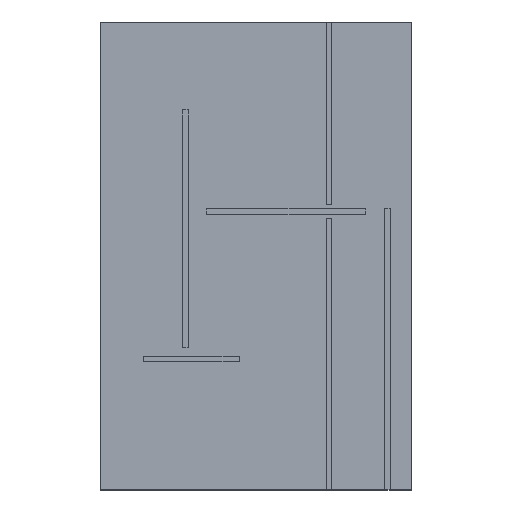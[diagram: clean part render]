
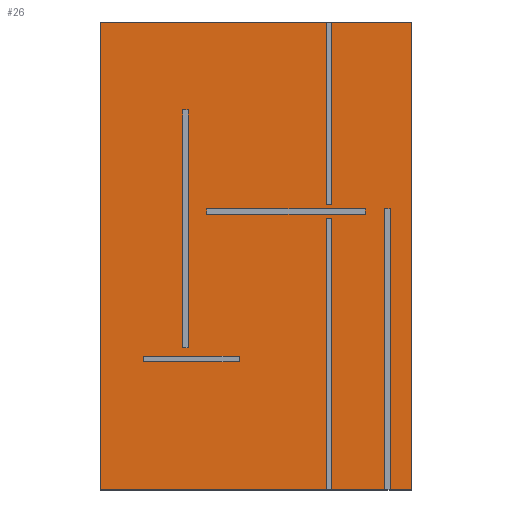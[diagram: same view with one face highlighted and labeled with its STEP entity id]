
A CAD part, top view. The second image highlights one B-rep face of the part: STEP entity #26.
In plain terms, the highlighted planar face has unit normal (0, 0, 1).
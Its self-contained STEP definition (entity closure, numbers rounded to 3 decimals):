
#26=ADVANCED_FACE('',(#98,#92,#93,#94),#964,.T.);
#92=FACE_BOUND('',#165,.T.);
#93=FACE_BOUND('',#166,.T.);
#94=FACE_BOUND('',#167,.T.);
#98=FACE_OUTER_BOUND('',#164,.T.);
#164=EDGE_LOOP('',(#236,#237,#238,#239,#240,#241,#242,#243,#244,#245,#246,
#247,#248,#249,#250,#251));
#165=EDGE_LOOP('',(#252,#253,#254,#255));
#166=EDGE_LOOP('',(#256,#257,#258,#259));
#167=EDGE_LOOP('',(#260,#261,#262,#263));
#236=ORIENTED_EDGE('',*,*,#563,.F.);
#237=ORIENTED_EDGE('',*,*,#562,.F.);
#238=ORIENTED_EDGE('',*,*,#561,.F.);
#239=ORIENTED_EDGE('',*,*,#560,.F.);
#240=ORIENTED_EDGE('',*,*,#559,.F.);
#241=ORIENTED_EDGE('',*,*,#558,.F.);
#242=ORIENTED_EDGE('',*,*,#557,.F.);
#243=ORIENTED_EDGE('',*,*,#556,.F.);
#244=ORIENTED_EDGE('',*,*,#555,.F.);
#245=ORIENTED_EDGE('',*,*,#554,.F.);
#246=ORIENTED_EDGE('',*,*,#553,.F.);
#247=ORIENTED_EDGE('',*,*,#552,.F.);
#248=ORIENTED_EDGE('',*,*,#551,.F.);
#249=ORIENTED_EDGE('',*,*,#550,.F.);
#250=ORIENTED_EDGE('',*,*,#549,.F.);
#251=ORIENTED_EDGE('',*,*,#548,.F.);
#252=ORIENTED_EDGE('',*,*,#567,.F.);
#253=ORIENTED_EDGE('',*,*,#568,.F.);
#254=ORIENTED_EDGE('',*,*,#569,.F.);
#255=ORIENTED_EDGE('',*,*,#564,.F.);
#256=ORIENTED_EDGE('',*,*,#570,.F.);
#257=ORIENTED_EDGE('',*,*,#571,.F.);
#258=ORIENTED_EDGE('',*,*,#572,.F.);
#259=ORIENTED_EDGE('',*,*,#565,.F.);
#260=ORIENTED_EDGE('',*,*,#573,.F.);
#261=ORIENTED_EDGE('',*,*,#574,.F.);
#262=ORIENTED_EDGE('',*,*,#575,.F.);
#263=ORIENTED_EDGE('',*,*,#566,.F.);
#548=EDGE_CURVE('',#860,#861,#704,.T.);
#549=EDGE_CURVE('',#861,#862,#705,.T.);
#550=EDGE_CURVE('',#862,#863,#706,.T.);
#551=EDGE_CURVE('',#863,#864,#707,.T.);
#552=EDGE_CURVE('',#864,#865,#708,.T.);
#553=EDGE_CURVE('',#865,#866,#709,.T.);
#554=EDGE_CURVE('',#866,#867,#710,.T.);
#555=EDGE_CURVE('',#867,#868,#711,.T.);
#556=EDGE_CURVE('',#868,#869,#712,.T.);
#557=EDGE_CURVE('',#869,#870,#713,.T.);
#558=EDGE_CURVE('',#870,#871,#714,.T.);
#559=EDGE_CURVE('',#871,#872,#715,.T.);
#560=EDGE_CURVE('',#872,#873,#716,.T.);
#561=EDGE_CURVE('',#873,#874,#717,.T.);
#562=EDGE_CURVE('',#874,#875,#718,.T.);
#563=EDGE_CURVE('',#875,#860,#719,.T.);
#564=EDGE_CURVE('',#876,#881,#720,.T.);
#565=EDGE_CURVE('',#877,#884,#721,.T.);
#566=EDGE_CURVE('',#878,#887,#722,.T.);
#567=EDGE_CURVE('',#879,#876,#723,.T.);
#568=EDGE_CURVE('',#880,#879,#724,.T.);
#569=EDGE_CURVE('',#881,#880,#725,.T.);
#570=EDGE_CURVE('',#882,#877,#726,.T.);
#571=EDGE_CURVE('',#883,#882,#727,.T.);
#572=EDGE_CURVE('',#884,#883,#728,.T.);
#573=EDGE_CURVE('',#885,#878,#729,.T.);
#574=EDGE_CURVE('',#886,#885,#730,.T.);
#575=EDGE_CURVE('',#887,#886,#731,.T.);
#704=B_SPLINE_CURVE_WITH_KNOTS('',1,(#1342,#1343),.UNSPECIFIED.,.F.,.F.,
(2,2),(0.,1473.142),.UNSPECIFIED.);
#705=B_SPLINE_CURVE_WITH_KNOTS('',1,(#1344,#1345),.UNSPECIFIED.,.F.,.F.,
(2,2),(0.,1169.086),.UNSPECIFIED.);
#706=B_SPLINE_CURVE_WITH_KNOTS('',1,(#1346,#1347),.UNSPECIFIED.,.F.,.F.,
(2,2),(0.,34.76),.UNSPECIFIED.);
#707=B_SPLINE_CURVE_WITH_KNOTS('',1,(#1348,#1349),.UNSPECIFIED.,.F.,.F.,
(2,2),(0.,1169.086),.UNSPECIFIED.);
#708=B_SPLINE_CURVE_WITH_KNOTS('',1,(#1350,#1351),.UNSPECIFIED.,.F.,.F.,
(2,2),(0.,524.488),.UNSPECIFIED.);
#709=B_SPLINE_CURVE_WITH_KNOTS('',1,(#1352,#1353),.UNSPECIFIED.,.F.,.F.,
(2,2),(0.,3000.),.UNSPECIFIED.);
#710=B_SPLINE_CURVE_WITH_KNOTS('',1,(#1354,#1355),.UNSPECIFIED.,.F.,.F.,
(2,2),(0.,142.488),.UNSPECIFIED.);
#711=B_SPLINE_CURVE_WITH_KNOTS('',1,(#1356,#1357),.UNSPECIFIED.,.F.,.F.,
(2,2),(0.,1802.),.UNSPECIFIED.);
#712=B_SPLINE_CURVE_WITH_KNOTS('',1,(#1358,#1359),.UNSPECIFIED.,.F.,.F.,
(2,2),(0.,34.76),.UNSPECIFIED.);
#713=B_SPLINE_CURVE_WITH_KNOTS('',1,(#1360,#1361),.UNSPECIFIED.,.F.,.F.,
(2,2),(0.,1802.),.UNSPECIFIED.);
#714=B_SPLINE_CURVE_WITH_KNOTS('',1,(#1362,#1363),.UNSPECIFIED.,.F.,.F.,
(2,2),(0.,347.24),.UNSPECIFIED.);
#715=B_SPLINE_CURVE_WITH_KNOTS('',1,(#1364,#1365),.UNSPECIFIED.,.F.,.F.,
(2,2),(0.,1738.326),.UNSPECIFIED.);
#716=B_SPLINE_CURVE_WITH_KNOTS('',1,(#1366,#1367),.UNSPECIFIED.,.F.,.F.,
(2,2),(0.,34.76),.UNSPECIFIED.);
#717=B_SPLINE_CURVE_WITH_KNOTS('',1,(#1368,#1369),.UNSPECIFIED.,.F.,.F.,
(2,2),(0.,1738.326),.UNSPECIFIED.);
#718=B_SPLINE_CURVE_WITH_KNOTS('',1,(#1370,#1371),.UNSPECIFIED.,.F.,.F.,
(2,2),(0.,1473.142),.UNSPECIFIED.);
#719=B_SPLINE_CURVE_WITH_KNOTS('',1,(#1372,#1373),.UNSPECIFIED.,.F.,.F.,
(2,2),(0.,3000.),.UNSPECIFIED.);
#720=B_SPLINE_CURVE_WITH_KNOTS('',1,(#1374,#1375),.UNSPECIFIED.,.F.,.F.,
(2,2),(0.,32.76),.UNSPECIFIED.);
#721=B_SPLINE_CURVE_WITH_KNOTS('',1,(#1376,#1377),.UNSPECIFIED.,.F.,.F.,
(2,2),(0.,32.76),.UNSPECIFIED.);
#722=B_SPLINE_CURVE_WITH_KNOTS('',1,(#1378,#1379),.UNSPECIFIED.,.F.,.F.,
(2,2),(0.,32.76),.UNSPECIFIED.);
#723=B_SPLINE_CURVE_WITH_KNOTS('',1,(#1380,#1381),.UNSPECIFIED.,.F.,.F.,
(2,2),(3065.521,6065.521),.UNSPECIFIED.);
#724=B_SPLINE_CURVE_WITH_KNOTS('',1,(#1382,#1383),.UNSPECIFIED.,.F.,.F.,
(2,2),(3032.76,3065.521),.UNSPECIFIED.);
#725=B_SPLINE_CURVE_WITH_KNOTS('',1,(#1384,#1385),.UNSPECIFIED.,.F.,.F.,
(2,2),(32.76,3032.76),.UNSPECIFIED.);
#726=B_SPLINE_CURVE_WITH_KNOTS('',1,(#1386,#1387),.UNSPECIFIED.,.F.,.F.,
(2,2),(3065.521,6065.521),.UNSPECIFIED.);
#727=B_SPLINE_CURVE_WITH_KNOTS('',1,(#1388,#1389),.UNSPECIFIED.,.F.,.F.,
(2,2),(3032.76,3065.521),.UNSPECIFIED.);
#728=B_SPLINE_CURVE_WITH_KNOTS('',1,(#1390,#1391),.UNSPECIFIED.,.F.,.F.,
(2,2),(32.76,3032.76),.UNSPECIFIED.);
#729=B_SPLINE_CURVE_WITH_KNOTS('',1,(#1392,#1393),.UNSPECIFIED.,.F.,.F.,
(2,2),(3065.521,6065.521),.UNSPECIFIED.);
#730=B_SPLINE_CURVE_WITH_KNOTS('',1,(#1394,#1395),.UNSPECIFIED.,.F.,.F.,
(2,2),(3032.76,3065.521),.UNSPECIFIED.);
#731=B_SPLINE_CURVE_WITH_KNOTS('',1,(#1396,#1397),.UNSPECIFIED.,.F.,.F.,
(2,2),(32.76,3032.76),.UNSPECIFIED.);
#860=VERTEX_POINT('',#1286);
#861=VERTEX_POINT('',#1287);
#862=VERTEX_POINT('',#1288);
#863=VERTEX_POINT('',#1289);
#864=VERTEX_POINT('',#1290);
#865=VERTEX_POINT('',#1291);
#866=VERTEX_POINT('',#1292);
#867=VERTEX_POINT('',#1293);
#868=VERTEX_POINT('',#1294);
#869=VERTEX_POINT('',#1295);
#870=VERTEX_POINT('',#1296);
#871=VERTEX_POINT('',#1297);
#872=VERTEX_POINT('',#1298);
#873=VERTEX_POINT('',#1299);
#874=VERTEX_POINT('',#1300);
#875=VERTEX_POINT('',#1301);
#876=VERTEX_POINT('',#1302);
#877=VERTEX_POINT('',#1303);
#878=VERTEX_POINT('',#1304);
#879=VERTEX_POINT('',#1305);
#880=VERTEX_POINT('',#1306);
#881=VERTEX_POINT('',#1307);
#882=VERTEX_POINT('',#1308);
#883=VERTEX_POINT('',#1309);
#884=VERTEX_POINT('',#1310);
#885=VERTEX_POINT('',#1311);
#886=VERTEX_POINT('',#1312);
#887=VERTEX_POINT('',#1313);
#964=PLANE('',#1118);
#1118=AXIS2_PLACEMENT_3D('',#1256,#1187,$);
#1187=DIRECTION('',(0.,0.,1.));
#1256=CARTESIAN_POINT('',(-20.,3030.,0.));
#1286=CARTESIAN_POINT('',(0.,3000.,0.));
#1287=CARTESIAN_POINT('',(1449.664,3000.,0.));
#1288=CARTESIAN_POINT('',(1449.664,1830.914,0.));
#1289=CARTESIAN_POINT('',(1483.871,1830.914,0.));
#1290=CARTESIAN_POINT('',(1483.871,3000.,0.));
#1291=CARTESIAN_POINT('',(2000.,3000.,0.));
#1292=CARTESIAN_POINT('',(2000.,0.,0.));
#1293=CARTESIAN_POINT('',(1859.783,0.,0.));
#1294=CARTESIAN_POINT('',(1859.783,1802.,0.));
#1295=CARTESIAN_POINT('',(1825.577,1802.,0.));
#1296=CARTESIAN_POINT('',(1825.577,0.,0.));
#1297=CARTESIAN_POINT('',(1483.871,0.,0.));
#1298=CARTESIAN_POINT('',(1483.871,1738.326,0.));
#1299=CARTESIAN_POINT('',(1449.664,1738.326,0.));
#1300=CARTESIAN_POINT('',(1449.664,0.,0.));
#1301=CARTESIAN_POINT('',(0.,0.,0.));
#1302=CARTESIAN_POINT('',(530.55,911.,0.));
#1303=CARTESIAN_POINT('',(1701.445,1767.24,0.));
#1304=CARTESIAN_POINT('',(891.561,823.24,0.));
#1305=CARTESIAN_POINT('',(530.55,2436.,0.));
#1306=CARTESIAN_POINT('',(564.756,2436.,0.));
#1307=CARTESIAN_POINT('',(564.756,911.,0.));
#1308=CARTESIAN_POINT('',(682.983,1767.24,0.));
#1309=CARTESIAN_POINT('',(682.983,1802.,0.));
#1310=CARTESIAN_POINT('',(1701.445,1802.,0.));
#1311=CARTESIAN_POINT('',(279.517,823.24,0.));
#1312=CARTESIAN_POINT('',(279.517,858.,0.));
#1313=CARTESIAN_POINT('',(891.561,858.,0.));
#1342=CARTESIAN_POINT('',(0.,3000.,0.));
#1343=CARTESIAN_POINT('',(1449.664,3000.,0.));
#1344=CARTESIAN_POINT('',(1449.664,3000.,0.));
#1345=CARTESIAN_POINT('',(1449.664,1830.914,0.));
#1346=CARTESIAN_POINT('',(1449.664,1830.914,0.));
#1347=CARTESIAN_POINT('',(1483.871,1830.914,0.));
#1348=CARTESIAN_POINT('',(1483.871,1830.914,0.));
#1349=CARTESIAN_POINT('',(1483.871,3000.,0.));
#1350=CARTESIAN_POINT('',(1483.871,3000.,0.));
#1351=CARTESIAN_POINT('',(2000.,3000.,0.));
#1352=CARTESIAN_POINT('',(2000.,3000.,0.));
#1353=CARTESIAN_POINT('',(2000.,0.,0.));
#1354=CARTESIAN_POINT('',(2000.,0.,0.));
#1355=CARTESIAN_POINT('',(1859.783,0.,0.));
#1356=CARTESIAN_POINT('',(1859.783,0.,0.));
#1357=CARTESIAN_POINT('',(1859.783,1802.,0.));
#1358=CARTESIAN_POINT('',(1859.783,1802.,0.));
#1359=CARTESIAN_POINT('',(1825.577,1802.,0.));
#1360=CARTESIAN_POINT('',(1825.577,1802.,0.));
#1361=CARTESIAN_POINT('',(1825.577,0.,0.));
#1362=CARTESIAN_POINT('',(1825.577,0.,0.));
#1363=CARTESIAN_POINT('',(1483.871,0.,0.));
#1364=CARTESIAN_POINT('',(1483.871,0.,0.));
#1365=CARTESIAN_POINT('',(1483.871,1738.326,0.));
#1366=CARTESIAN_POINT('',(1483.871,1738.326,0.));
#1367=CARTESIAN_POINT('',(1449.664,1738.326,0.));
#1368=CARTESIAN_POINT('',(1449.664,1738.326,0.));
#1369=CARTESIAN_POINT('',(1449.664,0.,0.));
#1370=CARTESIAN_POINT('',(1449.664,0.,0.));
#1371=CARTESIAN_POINT('',(0.,0.,0.));
#1372=CARTESIAN_POINT('',(0.,0.,0.));
#1373=CARTESIAN_POINT('',(0.,3000.,0.));
#1374=CARTESIAN_POINT('',(530.55,911.,0.));
#1375=CARTESIAN_POINT('',(564.756,911.,0.));
#1376=CARTESIAN_POINT('',(1701.445,1767.24,0.));
#1377=CARTESIAN_POINT('',(1701.445,1802.,0.));
#1378=CARTESIAN_POINT('',(891.561,823.24,0.));
#1379=CARTESIAN_POINT('',(891.561,858.,0.));
#1380=CARTESIAN_POINT('',(530.55,2436.,0.));
#1381=CARTESIAN_POINT('',(530.55,911.,0.));
#1382=CARTESIAN_POINT('',(564.756,2436.,0.));
#1383=CARTESIAN_POINT('',(530.55,2436.,0.));
#1384=CARTESIAN_POINT('',(564.756,911.,0.));
#1385=CARTESIAN_POINT('',(564.756,2436.,0.));
#1386=CARTESIAN_POINT('',(682.983,1767.24,0.));
#1387=CARTESIAN_POINT('',(1701.445,1767.24,0.));
#1388=CARTESIAN_POINT('',(682.983,1802.,0.));
#1389=CARTESIAN_POINT('',(682.983,1767.24,0.));
#1390=CARTESIAN_POINT('',(1701.445,1802.,0.));
#1391=CARTESIAN_POINT('',(682.983,1802.,0.));
#1392=CARTESIAN_POINT('',(279.517,823.24,0.));
#1393=CARTESIAN_POINT('',(891.561,823.24,0.));
#1394=CARTESIAN_POINT('',(279.517,858.,0.));
#1395=CARTESIAN_POINT('',(279.517,823.24,0.));
#1396=CARTESIAN_POINT('',(891.561,858.,0.));
#1397=CARTESIAN_POINT('',(279.517,858.,0.));
